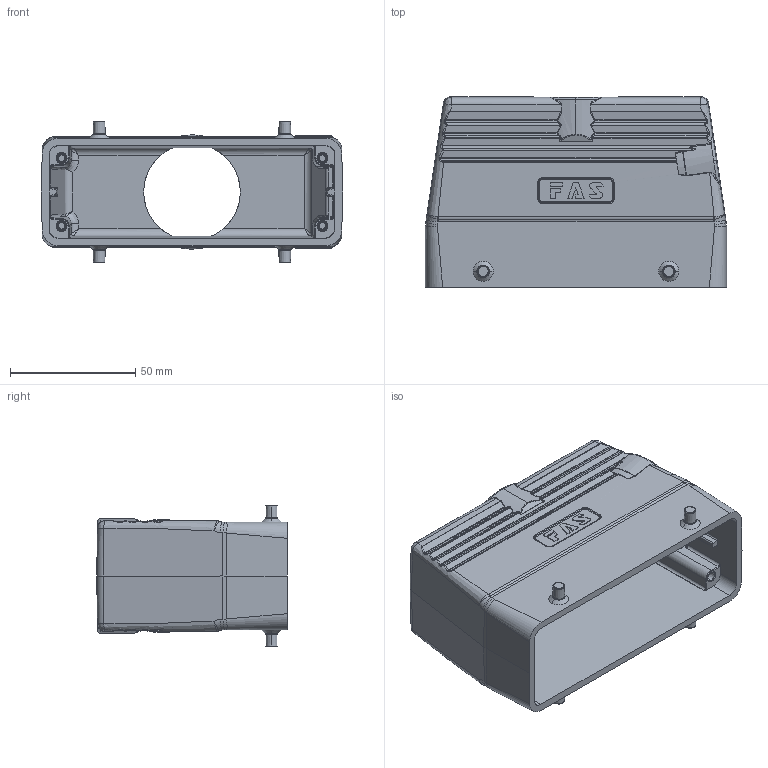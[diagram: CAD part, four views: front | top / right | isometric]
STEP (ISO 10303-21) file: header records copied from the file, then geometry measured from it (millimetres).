
FILE_DESCRIPTION (( 'STEP AP203' ), '1' );
FILE_NAME ('H24B-TGH-M40.STEP', '2020-07-07T02:41:01', ( '' ), ( '' ), 'SwSTEP 2.0', 'SolidWorks 2016', '' );
FILE_SCHEMA (( 'CONFIG_CONTROL_DESIGN' ));
Length unit declared in the file: millimetre
Products named in the file (1): H24B-TGH-M40
Bounding box: 120 x 76 x 56.4 mm (x, y, z)
Volume: 107590.7 mm3; surface area: 51290.4 mm2
Topology: 1 solids, 1 shells, 637 faces, 1576 edges, 959 vertices
Faces by surface type: bspline 240, cylinder 195, plane 147, cone 55
Entity records: 29720 total; most frequent: CARTESIAN_POINT 16848, ORIENTED_EDGE 3146, DIRECTION 2019, EDGE_CURVE 1573, VERTEX_POINT 959, AXIS2_PLACEMENT_3D 741, EDGE_LOOP 660, FACE_OUTER_BOUND 637
